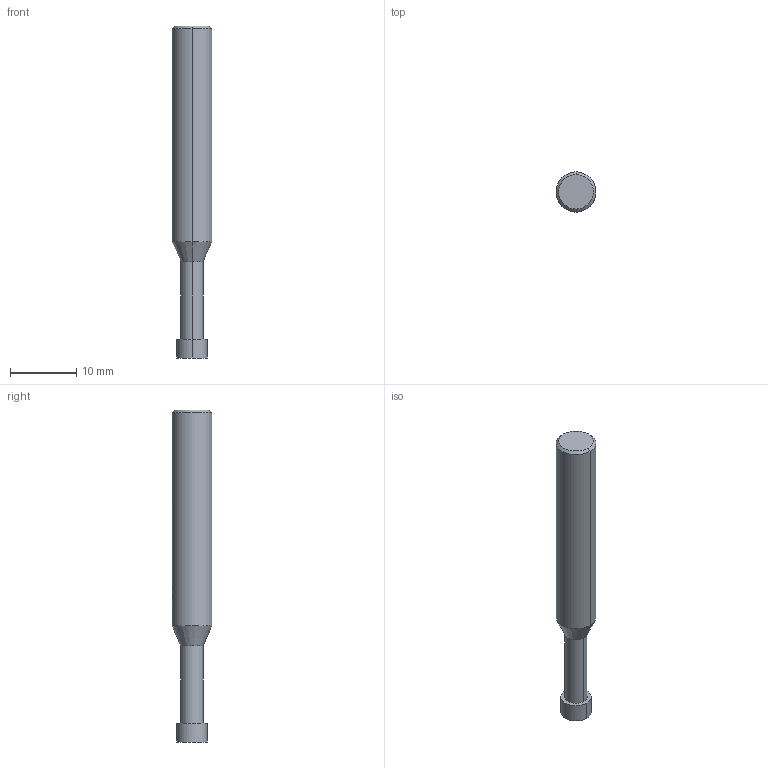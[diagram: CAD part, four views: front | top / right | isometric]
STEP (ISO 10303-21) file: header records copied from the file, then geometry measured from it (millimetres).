
FILE_DESCRIPTION(('no description'),'unknown implementation level');
FILE_NAME('solid4g3eO7zBRHxpkY1BdVwqrpvEMfc_1.STP',' ',('CIMSOURCE GmbH'),('CADClick - KiM GmbH - www.kimweb.de'),'unknown preprocess','ACIS','unknown authorization');
FILE_SCHEMA(('automotive_design'));
Length unit declared in the file: millimetre
Products named in the file (2): NOCUT; CUT
Bounding box: 6 x 6 x 50 mm (x, y, z)
Volume: 1120.5 mm3; surface area: 891.7 mm2
Topology: 2 solids, 2 shells, 30 faces, 69 edges, 44 vertices
Faces by surface type: cylinder 14, plane 10, cone 6
Entity records: 1910 total; most frequent: CARTESIAN_POINT 366, DIRECTION 153, STYLED_ITEM 145, PRESENTATION_STYLE_ASSIGNMENT 145, COLOUR_RGB 145, ORIENTED_EDGE 138, EDGE_CURVE 69, CURVE_STYLE 69
